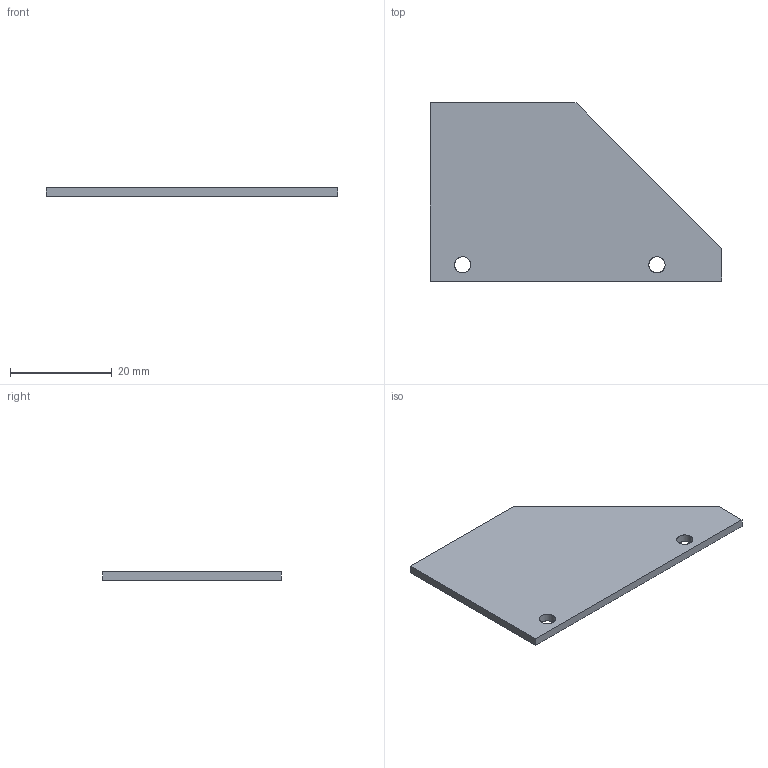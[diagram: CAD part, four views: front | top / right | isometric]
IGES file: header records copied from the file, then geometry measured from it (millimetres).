
Start section: SolidWorks IGES file using analytic representation for surfaces
Global section: file name: C:\Users\Bud\Documents\GitHub\telemetry\Hardware\Masthead hardware\IGES\wind dir indicator flag.IGS; native system: SolidWorks 2011; preprocessor: SolidWorks 2011; author: Bud; date: 131225.211952; units: inch
Bounding box: 57.15 x 34.92 x 1.59 mm (x, y, z)
Surface area: 3441.2 mm2 (no closed solid volume)
Topology: 0 solids, 0 shells, 11 faces, 174 edges, 174 vertices
Faces by surface type: bspline 7, revolution 4
